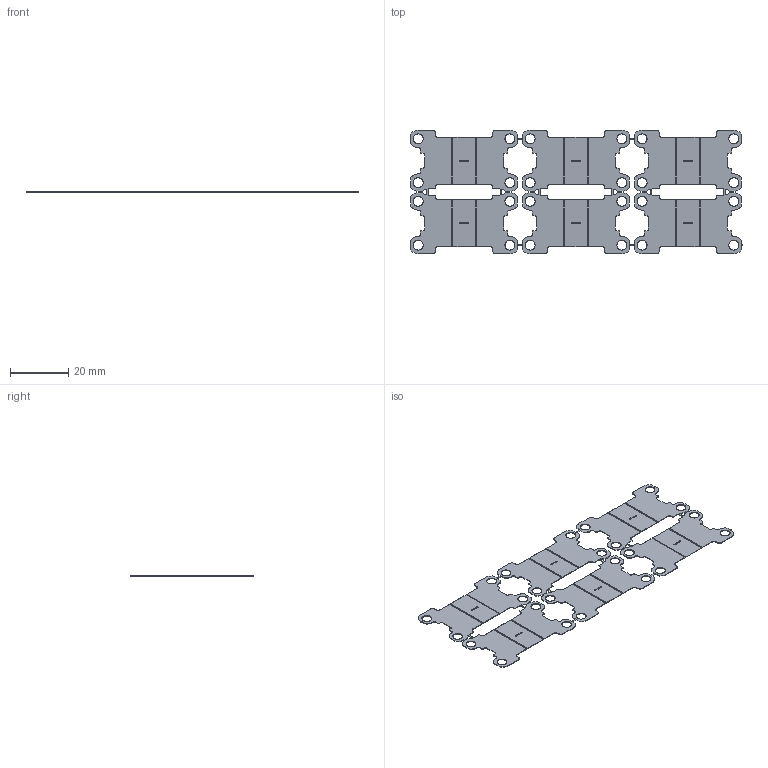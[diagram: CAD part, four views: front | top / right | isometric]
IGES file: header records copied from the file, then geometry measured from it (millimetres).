
Start section: C
Global section: file name: 11206613.igs; native system: By Siemens PLM Incorporated; preprocessor: XPlus GENERIC/IGES 19.0.9; author: Author; organization: Title; date: 20190109.145935; units: millimetre
Bounding box: 113.74 x 42.4 x 0.2 mm (x, y, z)
Surface area: 6783.9 mm2 (no closed solid volume)
Topology: 0 solids, 0 shells, 515 faces, 3192 edges, 3192 vertices
Faces by surface type: bspline 515
